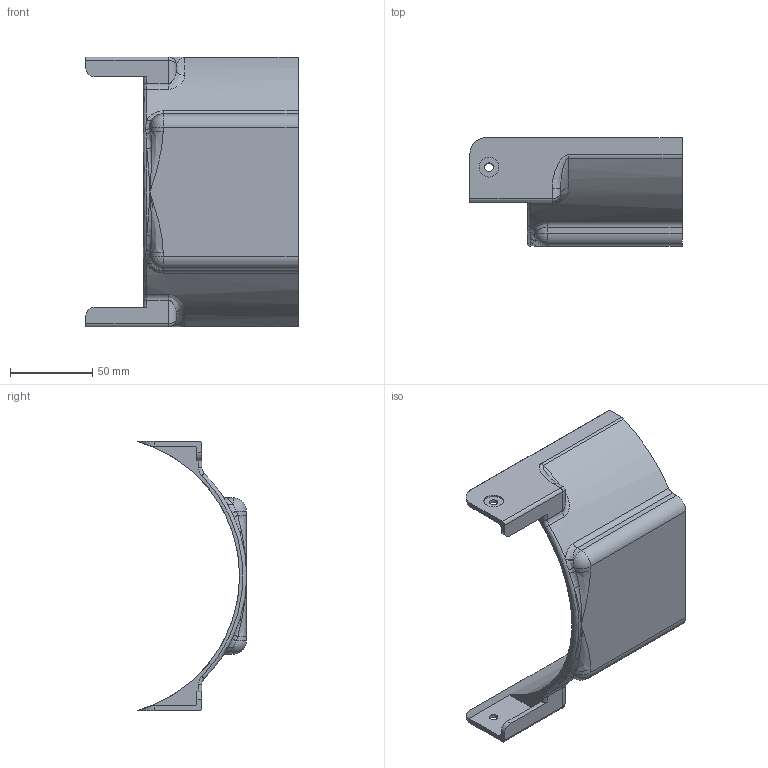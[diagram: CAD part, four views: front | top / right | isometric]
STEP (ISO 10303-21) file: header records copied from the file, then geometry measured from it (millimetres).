
FILE_DESCRIPTION (( 'STEP AP203' ), '1' );
FILE_NAME ('Panther PRO_LITE accessory bracket build plate.STEP', '2026-09-25T08:08:21', ( '' ), ( '' ), 'SwSTEP 2.0', 'SolidWorks 2015', '' );
FILE_SCHEMA (( 'CONFIG_CONTROL_DESIGN' ));
Length unit declared in the file: millimetre
Products named in the file (1): Panther PRO_LITE accessory bracket build plate
Bounding box: 129 x 66 x 164 mm (x, y, z)
Volume: 132563.6 mm3; surface area: 53805.6 mm2
Topology: 1 solids, 1 shells, 88 faces, 223 edges, 131 vertices
Faces by surface type: cylinder 38, plane 23, bspline 20, torus 5, sphere 2
Entity records: 3681 total; most frequent: CARTESIAN_POINT 1624, ORIENTED_EDGE 430, DIRECTION 401, EDGE_CURVE 215, AXIS2_PLACEMENT_3D 157, VERTEX_POINT 131, EDGE_LOOP 94, ADVANCED_FACE 88
